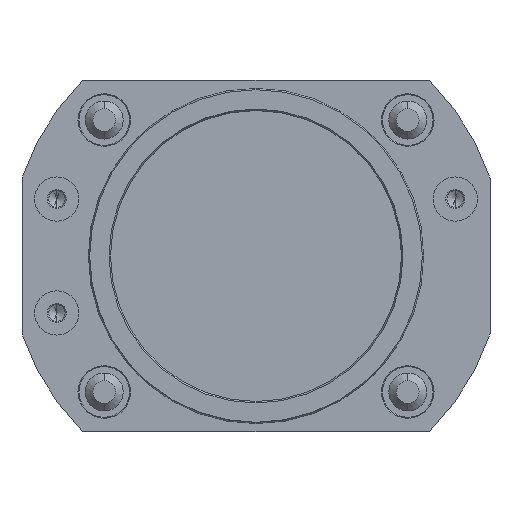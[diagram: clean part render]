
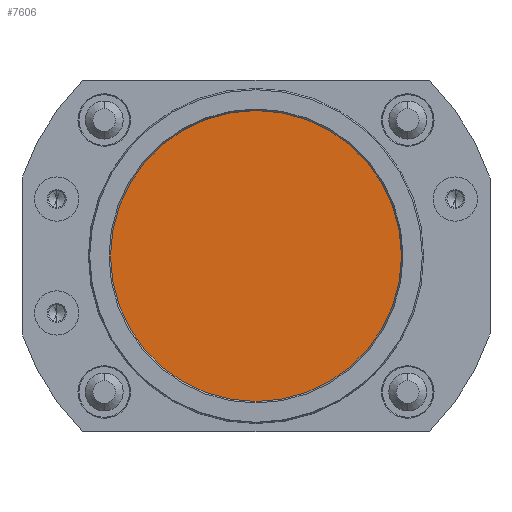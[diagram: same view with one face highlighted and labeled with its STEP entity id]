
A CAD part, front view. The second image highlights one B-rep face of the part: STEP entity #7606.
In plain terms, the highlighted planar face has unit normal (0, -1, 0).
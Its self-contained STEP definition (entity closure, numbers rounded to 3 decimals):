
#488 = VERTEX_POINT ( 'NONE', #1573 ) ;
#489 = EDGE_CURVE ( 'NONE', #494, #488, #1588, .T. ) ;
#494 = VERTEX_POINT ( 'NONE', #1622 ) ;
#1573 = CARTESIAN_POINT ( 'NONE',  ( 0., 3., 23. ) ) ;
#1588 = CIRCLE ( 'NONE', #1599, 23. ) ;
#1599 = AXIS2_PLACEMENT_3D ( 'NONE', #1631, #1627, #1626 ) ;
#1622 = CARTESIAN_POINT ( 'NONE',  ( 0., 3., -23. ) ) ;
#1626 = DIRECTION ( 'NONE',  ( 0., 0., 1. ) ) ;
#1627 = DIRECTION ( 'NONE',  ( 0., 1., 0. ) ) ;
#1631 = CARTESIAN_POINT ( 'NONE',  ( 0., 3., 0. ) ) ;
#2351 = DIRECTION ( 'NONE',  ( 0., 0., 1. ) ) ;
#2352 = DIRECTION ( 'NONE',  ( 0., 1., 0. ) ) ;
#2353 = CARTESIAN_POINT ( 'NONE',  ( 0., 3., 0. ) ) ;
#2354 = AXIS2_PLACEMENT_3D ( 'NONE', #2353, #2352, #2351 ) ;
#2356 = DIRECTION ( 'NONE',  ( 0., 0., -1. ) ) ;
#2357 = DIRECTION ( 'NONE',  ( 0., -1., 0. ) ) ;
#2358 = CARTESIAN_POINT ( 'NONE',  ( 0., 3., 0. ) ) ;
#2361 = FACE_OUTER_BOUND ( 'NONE', #7987, .T. ) ;
#2369 = AXIS2_PLACEMENT_3D ( 'NONE', #2358, #2357, #2356 ) ;
#2372 = CIRCLE ( 'NONE', #2354, 23. ) ;
#2373 = PLANE ( 'NONE',  #2369 ) ;
#7606 = ADVANCED_FACE ( 'NONE', ( #2361 ), #2373, .T. ) ;
#7657 = EDGE_CURVE ( 'NONE', #488, #494, #2372, .T. ) ;
#7707 = ORIENTED_EDGE ( 'NONE', *, *, #489, .F. ) ;
#7987 = EDGE_LOOP ( 'NONE', ( #8065, #7707 ) ) ;
#8065 = ORIENTED_EDGE ( 'NONE', *, *, #7657, .F. ) ;
